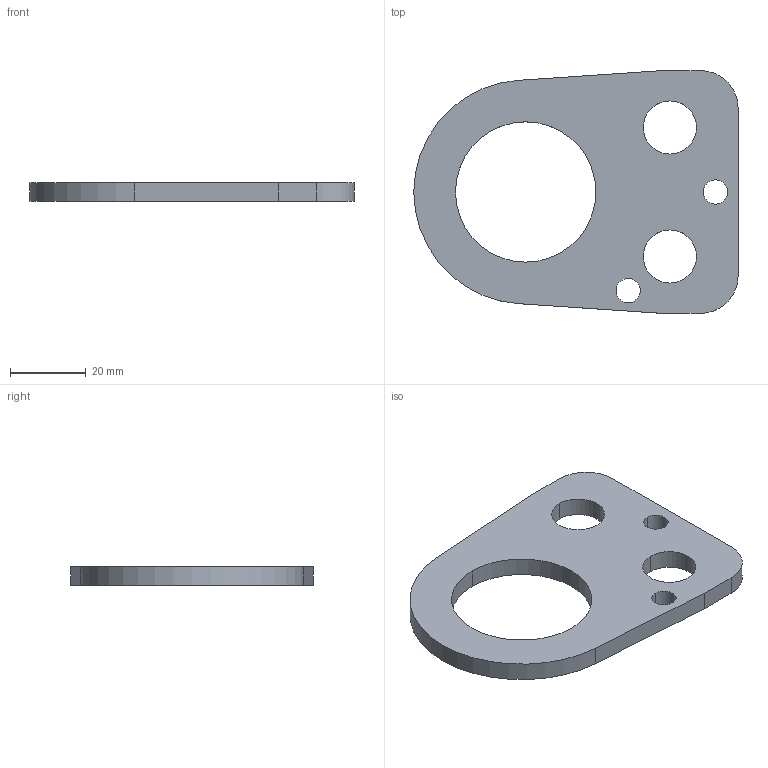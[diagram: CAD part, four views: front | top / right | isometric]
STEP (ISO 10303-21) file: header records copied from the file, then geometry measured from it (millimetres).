
FILE_DESCRIPTION(/* description */ (''),/* implementation_level */ '2;1');
FILE_NAME(/* name */ '3d_bdc45_03368_r00.stp',/* time_stamp */ '2011-01-10T14:17:24+09:00',/* author */ ('MISUMI'),/* organization */ (''),/* preprocessor_version */ 'ST-DEVELOPER v11',/* originating_system */ 'UGS - NX 5.0',/* authorisation */ '');
FILE_SCHEMA (('CONFIG_CONTROL_DESIGN'));
Length unit declared in the file: millimetre
Products named in the file (1): 3d_bdc45_03368_r00
Bounding box: 85.5 x 64 x 5 mm (x, y, z)
Volume: 16865.8 mm3; surface area: 9269.7 mm2
Topology: 1 solids, 1 shells, 20 faces, 54 edges, 36 vertices
Faces by surface type: cylinder 13, plane 7
Entity records: 750 total; most frequent: DIRECTION 122, CARTESIAN_POINT 111, ORIENTED_EDGE 108, EDGE_CURVE 54, AXIS2_PLACEMENT_3D 47, VERTEX_POINT 36, EDGE_LOOP 30, LINE 28
